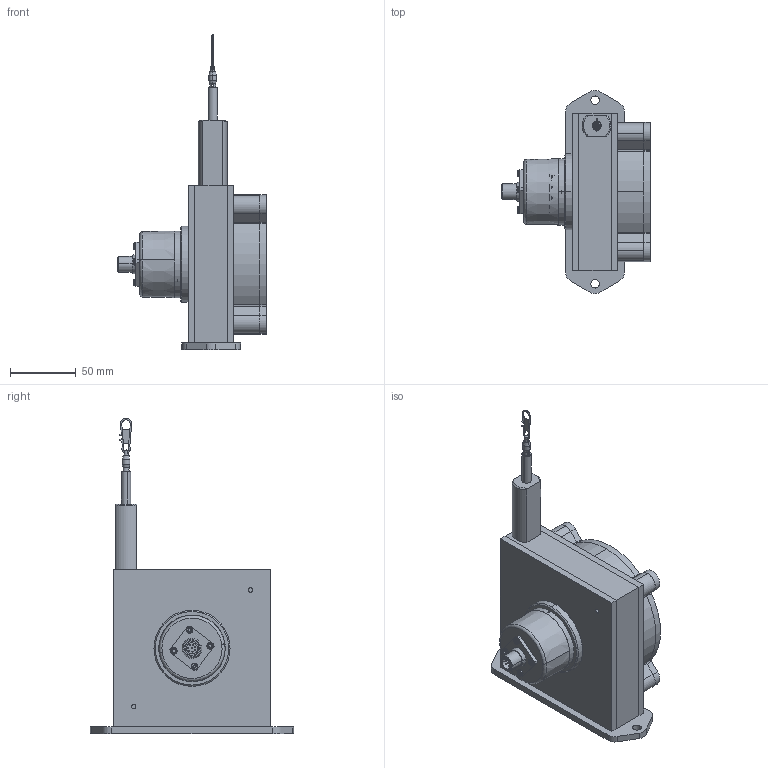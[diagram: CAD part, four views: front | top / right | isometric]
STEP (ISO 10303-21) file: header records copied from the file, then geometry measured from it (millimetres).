
FILE_DESCRIPTION (( 'STEP AP214' ), '1' );
FILE_NAME ('D8.4C1.0600.0053.2000.STEP', '2009-05-12T08:10:52', ( 'admin' ), ( 'Fritz Kübler GmbH' ), 'SwSTEP 2.0', 'SolidWorks 2009', '' );
FILE_SCHEMA (( 'AUTOMOTIVE_DESIGN' ));
Length unit declared in the file: millimetre
Products named in the file (1): D8.4C1.0600.0053.2000
Bounding box: 113.5 x 155 x 240.32 mm (x, y, z)
Volume: 366734.6 mm3; surface area: 182141.7 mm2
Topology: 22 solids, 22 shells, 784 faces, 1918 edges, 1190 vertices
Faces by surface type: cylinder 310, plane 243, cone 115, torus 66, sphere 32, bspline 18
Entity records: 33791 total; most frequent: CARTESIAN_POINT 6156, DIRECTION 4212, ORIENTED_EDGE 3708, EDGE_CURVE 1854, AXIS2_PLACEMENT_3D 1716, VERTEX_POINT 1170, CIRCLE 949, EDGE_LOOP 936
